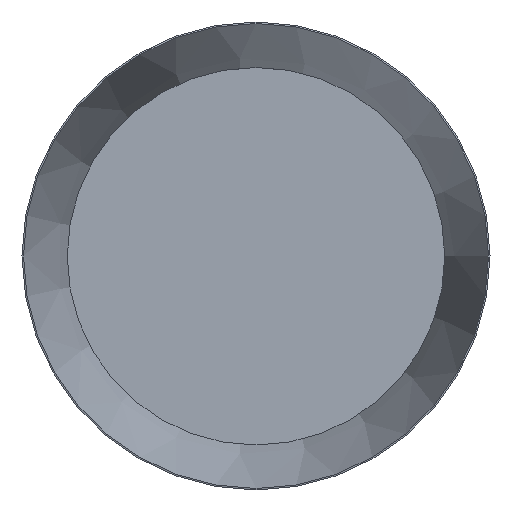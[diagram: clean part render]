
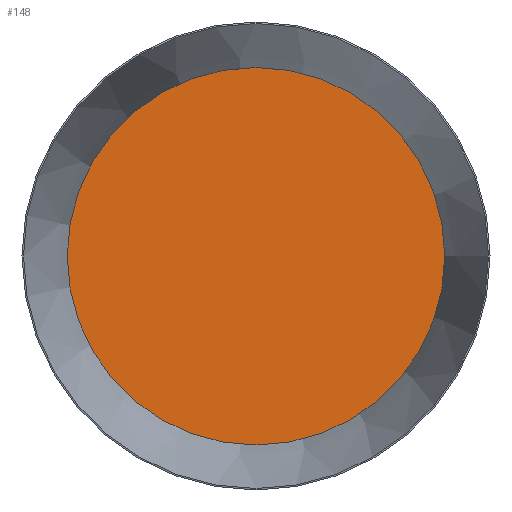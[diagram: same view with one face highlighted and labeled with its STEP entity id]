
A CAD part, top view. The second image highlights one B-rep face of the part: STEP entity #148.
In plain terms, the highlighted planar face has unit normal (0, 0, 1).
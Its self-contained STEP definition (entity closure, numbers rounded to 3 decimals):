
#35=FACE_OUTER_BOUND('',#47,.T.);
#47=EDGE_LOOP('',(#105));
#60=CIRCLE('',#185,121.);
#74=VERTEX_POINT('',#271);
#86=EDGE_CURVE('',#74,#74,#60,.T.);
#105=ORIENTED_EDGE('',*,*,#86,.T.);
#143=PLANE('',#184);
#148=ADVANCED_FACE('',(#35),#143,.T.);
#184=AXIS2_PLACEMENT_3D('',#270,#212,#213);
#185=AXIS2_PLACEMENT_3D('',#272,#214,#215);
#212=DIRECTION('center_axis',(0.,0.,
1.));
#213=DIRECTION('ref_axis',(0.,1.,0.));
#214=DIRECTION('center_axis',(0.,0.,
1.));
#215=DIRECTION('ref_axis',(-1.,0.,0.));
#270=CARTESIAN_POINT('Origin',(0.,0.,
284.333));
#271=CARTESIAN_POINT('',(121.,0.,284.333));
#272=CARTESIAN_POINT('Origin',(0.,0.,
284.333));
